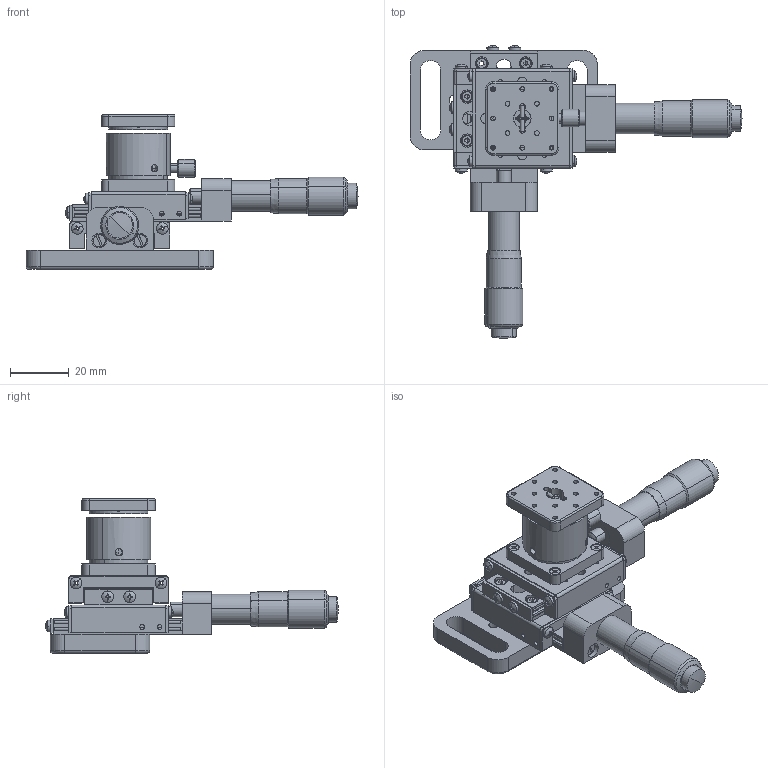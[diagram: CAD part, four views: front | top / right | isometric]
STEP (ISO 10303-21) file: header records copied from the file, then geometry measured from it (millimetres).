
FILE_DESCRIPTION (( 'STEP AP203' ), '1' );
FILE_NAME ('7SAM310三维调整台.STEP', '2022-03-29T07:35:53', ( '' ), ( '' ), 'SwSTEP 2.0', 'SolidWorks 2018', '' );
FILE_SCHEMA (( 'CONFIG_CONTROL_DESIGN' ));
Length unit declared in the file: millimetre
Products named in the file (1): 7SAM310三维调整台
Bounding box: 113.32 x 99.9 x 52.8 mm (x, y, z)
Surface area: 34397.3 mm2 (no closed solid volume)
Topology: 0 solids, 88 shells, 772 faces, 2648 edges, 1910 vertices
Faces by surface type: plane 352, cylinder 307, sphere 44, torus 34, cone 29, bspline 6
Entity records: 42643 total; most frequent: CARTESIAN_POINT 19493, DIRECTION 5131, ORIENTED_EDGE 4136, EDGE_CURVE 2642, AXIS2_PLACEMENT_3D 1974, VERTEX_POINT 1910, CIRCLE 1207, LINE 1183
